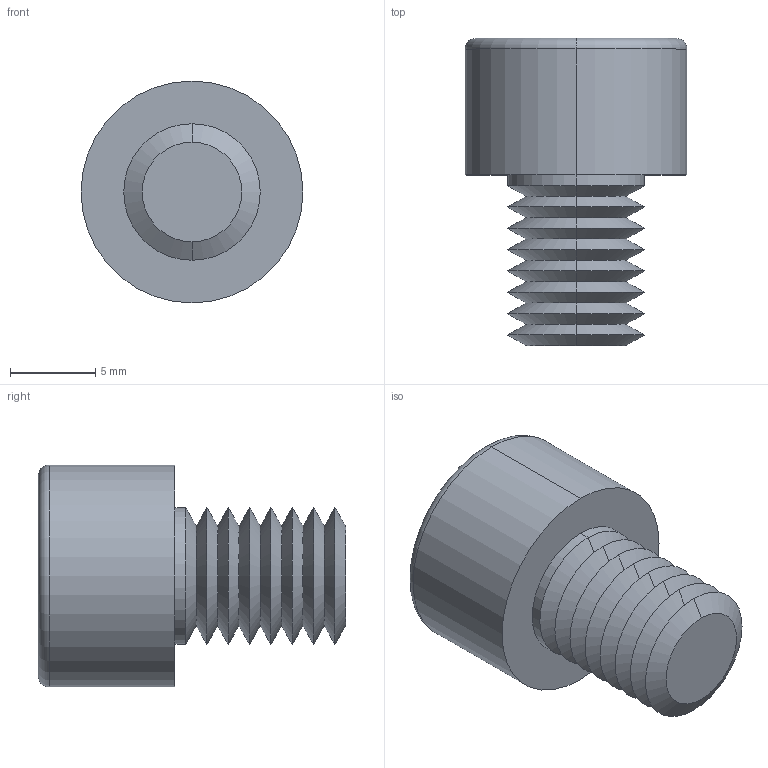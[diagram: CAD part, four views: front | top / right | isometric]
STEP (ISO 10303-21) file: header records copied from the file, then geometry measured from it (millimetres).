
FILE_DESCRIPTION (( 'STEP AP203' ), '1' );
FILE_NAME ('91N.080.0100.step', '2025-05-20T08:53:36', ( '' ), ( '' ), 'SwSTEP 2.0', 'SolidWorks 2019', '' );
FILE_SCHEMA (( 'CONFIG_CONTROL_DESIGN' ));
Length unit declared in the file: millimetre
Products named in the file (1): 91N.080.0100
Bounding box: 13 x 18 x 13 mm (x, y, z)
Volume: 1241.4 mm3; surface area: 1108.3 mm2
Topology: 1 solids, 1 shells, 60 faces, 119 edges, 61 vertices
Faces by surface type: cone 39, plane 15, cylinder 4, torus 2
Entity records: 1578 total; most frequent: DIRECTION 287, CARTESIAN_POINT 266, ORIENTED_EDGE 234, EDGE_CURVE 117, AXIS2_PLACEMENT_3D 116, EDGE_LOOP 62, VERTEX_POINT 61, ADVANCED_FACE 60
